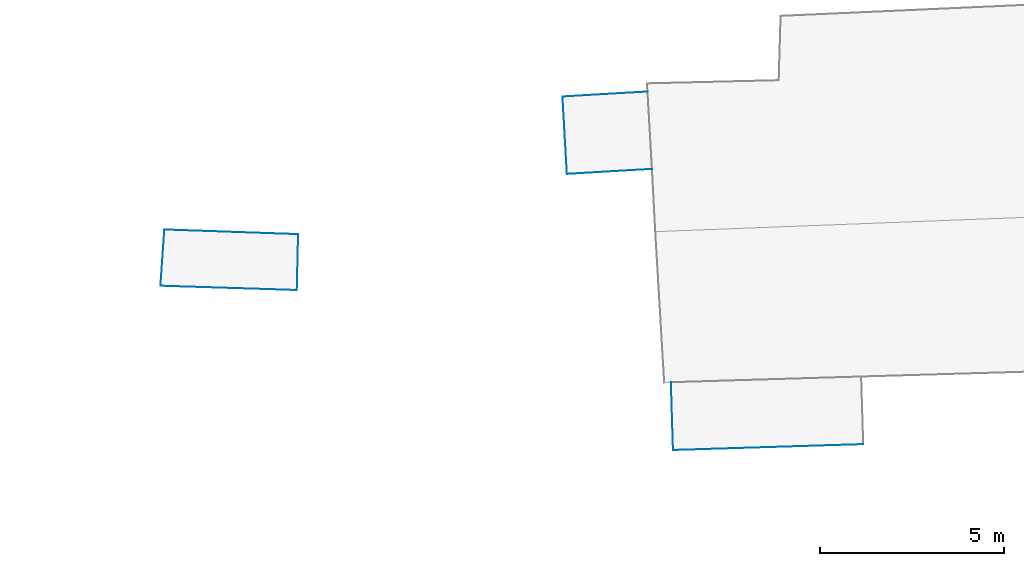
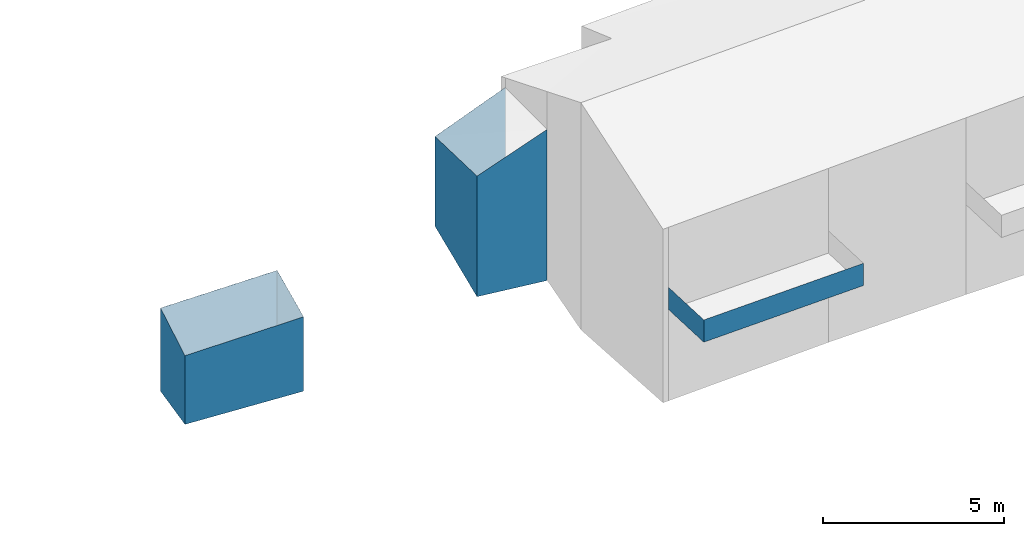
# Not in any storey, part 7 of 57: 11 walls.
"""IFC2X3 building model written with IfcOpenShell, lengths in metres."""

import ifcopenshell
import ifcopenshell.guid

model = None  # the IFC model being written
_history = None  # IfcOwnerHistory: only IFC2X3 demands one
_inside = {}  # id of a spatial element -> (the spatial element, [elements in it])
_under = {}  # id of a project, library or spatial element -> (it, [spatial elements below it])
_declared = {}  # id of a project -> (the project, [libraries it declares])
_typed = {}  # id of a type object -> (the type object, [elements of that type])
_made_of = {}  # id of a material, layer set ... -> (it, [elements and type objects made of it])


def new_model(schema):
    """Start an empty IFC model of exactly this schema.

    Asked for "IFC4X3", IfcOpenShell would pick the latest addendum, in which some entities
    have other attributes; the version numbers below select the first issue.
    IFC2X3 requires an IfcOwnerHistory on every rooted entity: one is made here for all.
    """
    global model, _history
    if schema == "IFC4X3":
        model = ifcopenshell.file(schema_version=(4, 3, 0, 0))
    else:
        model = ifcopenshell.file(schema=schema)
    _inside.clear()
    _under.clear()
    _declared.clear()
    _typed.clear()
    _made_of.clear()
    _history = None
    if model.schema == "IFC2X3":
        org = make("IfcOrganization", Name="unknown")
        user = make(
            "IfcPersonAndOrganization",
            ThePerson=make("IfcPerson", FamilyName="unknown"),
            TheOrganization=org,
        )
        app = make(
            "IfcApplication",
            ApplicationDeveloper=org,
            Version="unknown",
            ApplicationFullName="unknown",
            ApplicationIdentifier="unknown",
        )
        _history = make(
            "IfcOwnerHistory",
            OwningUser=user,
            OwningApplication=app,
            ChangeAction="ADDED",
            CreationDate=0,
        )
    return model


def make(cls, **values):
    """One entity of the class cls with the attributes given. An attribute that is None is left unset."""
    return model.create_entity(
        cls, **{name: value for name, value in values.items() if value is not None}
    )


def entity(cls, *values):
    """Any entity or typed value of the class cls, its attributes in the order of the schema. None: left unset."""
    e = model.create_entity(cls)
    for i, value in enumerate(values):
        if value is not None:
            e[i] = value
    return e


def rooted(cls, **values):
    """An entity with a GlobalId (a new one), such as an element, a storey or a relation."""
    return make(cls, GlobalId=ifcopenshell.guid.new(), OwnerHistory=_history, **values)


def si_unit(unit_type, name, prefix=None):
    """IfcSIUnit, for example si_unit("LENGTHUNIT", "METRE", prefix="MILLI")."""
    return make("IfcSIUnit", UnitType=unit_type, Prefix=prefix, Name=name)


def converted_unit(unit_type, name, factor, base, dimensions=None, offset=None):
    """IfcConversionBasedUnit, such as the inch: factor (a typed value) times the base unit."""
    return make(
        "IfcConversionBasedUnit"
        if offset is None
        else "IfcConversionBasedUnitWithOffset",
        ConversionOffset=offset,
        Dimensions=None
        if dimensions is None
        else entity("IfcDimensionalExponents", *dimensions),
        UnitType=unit_type,
        Name=name,
        ConversionFactor=make(
            "IfcMeasureWithUnit", ValueComponent=factor, UnitComponent=base
        ),
    )


def assignment(units):
    """IfcUnitAssignment: the units of a project."""
    return None if units is None else make("IfcUnitAssignment", Units=units)


def point(xyz):
    """IfcCartesianPoint."""
    return None if xyz is None else make("IfcCartesianPoint", Coordinates=xyz)


def direction(xyz):
    """IfcDirection."""
    return None if xyz is None else make("IfcDirection", DirectionRatios=xyz)


def frame(location, z_axis=None, x_axis=None):
    """IfcAxis2Placement3D, a coordinate frame: its origin and axes. An axis left out is left unset."""
    return make(
        "IfcAxis2Placement3D",
        Location=point(location),
        Axis=direction(z_axis),
        RefDirection=direction(x_axis),
    )


def origin():
    """The frame at (0, 0, 0) with its axes left unset."""
    return frame((0.0, 0.0, 0.0))


def place(relative_to, where):
    """IfcLocalPlacement: puts the frame where relative to a parent placement (None: the world)."""
    return make(
        "IfcLocalPlacement", PlacementRelTo=relative_to, RelativePlacement=where
    )


def context(
    kind, dimensions, precision=None, world=None, true_north=None, identifier=None
):
    """IfcGeometricRepresentationContext, for example the 3D "Model" context."""
    return make(
        "IfcGeometricRepresentationContext",
        ContextIdentifier=identifier,
        ContextType=kind,
        CoordinateSpaceDimension=dimensions,
        Precision=precision,
        WorldCoordinateSystem=world,
        TrueNorth=true_north,
    )


def subcontext(parent, identifier, kind, view, scale=None):
    """IfcGeometricRepresentationSubContext, for example "Body" below "Model"."""
    return make(
        "IfcGeometricRepresentationSubContext",
        ContextIdentifier=identifier,
        ContextType=kind,
        ParentContext=parent,
        TargetScale=scale,
        TargetView=view,
    )


def project(units=None, contexts=None):
    """IfcProject with its units and contexts."""
    return rooted(
        "IfcProject",
        Name="project",
        RepresentationContexts=contexts,
        UnitsInContext=assignment(units),
    )


def spatial(cls, under=None, at=None, **own):
    """A site, building, storey or space (cls), placed at a placement, below another one or the project."""
    s = rooted(cls, ObjectPlacement=at, **own)
    if under is not None:
        _under.setdefault(under.id(), (under, []))[1].append(s)
    return s


def faces_of(points, faces, orient=None, outer=None):
    """IfcFace entities. A face is a list of loops; a loop is a list of indices into points, from 0.

    orient and outer hold one flag for each loop. By default every Orientation is true, the
    first loop of a face is its IfcFaceOuterBound and the others are IfcFaceBound.
    """
    made = []
    for i, loops in enumerate(faces):
        bounds = []
        for j, loop in enumerate(loops):
            is_outer = j == 0 if outer is None else outer[i][j]
            bounds.append(
                make(
                    "IfcFaceOuterBound" if is_outer else "IfcFaceBound",
                    Bound=make("IfcPolyLoop", Polygon=[points[k] for k in loop]),
                    Orientation=True if orient is None else orient[i][j],
                )
            )
        made.append(make("IfcFace", Bounds=bounds))
    return made


def face_set(faces, orient=None, outer=None):
    """The faces of one IfcConnectedFaceSet. surface_model builds it on its shared points."""
    return ("IfcConnectedFaceSet", faces, orient, outer)


def surface_model(cls, points, shells):
    """IfcFaceBasedSurfaceModel or IfcShellBasedSurfaceModel (cls): surfaces that need not close."""
    shared = [point(p) for p in points]
    made = [make(c, CfsFaces=faces_of(shared, fs, o, b)) for c, fs, o, b in shells]
    if cls == "IfcFaceBasedSurfaceModel":
        return make(cls, FbsmFaces=made)
    return make(cls, SbsmBoundary=made)


def shape(context_of_items, identifier, shape_type, items):
    """IfcShapeRepresentation: the items that make up one representation, for example the "Body"."""
    return make(
        "IfcShapeRepresentation",
        ContextOfItems=context_of_items,
        RepresentationIdentifier=identifier,
        RepresentationType=shape_type,
        Items=items,
    )


def made_of(thing, what):
    """Note that an element or type object is made of a material, layer set ...; save() writes the relation."""
    if what is not None:
        _made_of.setdefault(what.id(), (what, []))[1].append(thing)
    return thing


def element(
    cls,
    number,
    at=None,
    inside=None,
    cuts=None,
    type_object=None,
    material=None,
    context=None,
    identifier="Body",
    shape_type=None,
    held_by="IfcProductDefinitionShape",
    body=None,
    shapes=None,
    **own,
):
    """One element of the class cls, such as IfcWall. Its Tag is "e" and its number.

    at: its placement. inside: the storey or other place that contains it. cuts: it is an
    opening in that element (IfcRelVoidsElement). A single representation is given by context,
    identifier, shape_type and body (its items); several are given by shapes. held_by: the class
    of the entity that holds the representations. save() writes the other relations.
    """
    e = rooted(cls, Tag="e%d" % number, ObjectPlacement=at, **own)
    if body is not None:
        shapes = [shape(context, identifier, shape_type, body)]
    if shapes is not None:
        e.Representation = make(held_by, Representations=shapes)
    if inside is not None:
        _inside.setdefault(inside.id(), (inside, []))[1].append(e)
    if cuts is not None:
        rooted(
            "IfcRelVoidsElement", RelatingBuildingElement=cuts, RelatedOpeningElement=e
        )
    if type_object is not None:
        _typed.setdefault(type_object.id(), (type_object, []))[1].append(e)
    return made_of(e, material)


def aggregate(whole, parts):
    """IfcRelAggregates: a whole, such as a stair, and the parts it consists of."""
    return rooted("IfcRelAggregates", RelatingObject=whole, RelatedObjects=parts)


def save(model, path):
    """Write the relations noted so far, then the file.

    IfcRelAggregates (storeys below a building ...), IfcRelContainedInSpatialStructure (elements
    in a storey), IfcRelDefinesByType, IfcRelAssociatesMaterial and IfcRelDeclares: one each for
    every whole, place, type object, material and project.
    """
    for whole, parts in _under.values():
        aggregate(whole, parts)
    for where, things in _inside.values():
        rooted(
            "IfcRelContainedInSpatialStructure",
            RelatedElements=things,
            RelatingStructure=where,
        )
    for kind, things in _typed.values():
        rooted("IfcRelDefinesByType", RelatedObjects=things, RelatingType=kind)
    for what, things in _made_of.values():
        rooted("IfcRelAssociatesMaterial", RelatedObjects=things, RelatingMaterial=what)
    for by, libraries in _declared.values():
        rooted("IfcRelDeclares", RelatingContext=by, RelatedDefinitions=libraries)
    model.write(path)


model = new_model("IFC2X3")

# Units and contexts
model_context = context("Model", 3, precision=1e-05, world=origin())
body_context = subcontext(model_context, "Body", "Model", "MODEL_VIEW")
ifc_project = project(units=[converted_unit("PLANEANGLEUNIT", "DEGREE", entity("IfcRatioMeasure", 0.0174532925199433), si_unit("PLANEANGLEUNIT", "RADIAN"), dimensions=[0, 0, 0, 0, 0, 0, 0]), si_unit("AREAUNIT", "SQUARE_METRE"), si_unit("LENGTHUNIT", "METRE")], contexts=[model_context])

# Site, building
site_placement = place(None, origin())
site = spatial("IfcSite", under=ifc_project, at=site_placement, Name="_site", CompositionType="ELEMENT")
building_1_placement = place(site_placement, origin())
building_1 = spatial("IfcBuilding", under=site, at=building_1_placement, Name="_building", CompositionType="ELEMENT")

# Walls
wall_1_placement = place(building_1_placement, origin())
element("IfcWall", 1, at=wall_1_placement, inside=building_1, Name="Wall", context=body_context, shape_type="SurfaceModel", body=[
    surface_model("IfcFaceBasedSurfaceModel", [(178.993, 61.402, 109.81), (175.283, 61.519, 109.73), (175.283, 61.519, 107.415), (178.993, 61.402, 107.307)], [face_set([[[0, 1, 2, 3]]])]),
])
wall_2_placement = place(building_1_placement, origin())
element("IfcWall", 2, at=wall_2_placement, inside=building_1, Name="Wall", context=body_context, shape_type="SurfaceModel", body=[
    surface_model("IfcFaceBasedSurfaceModel", [(179.029, 62.922, 110.44), (178.993, 61.402, 109.81), (178.993, 61.402, 107.307), (179.029, 62.922, 107.557)], [face_set([[[0, 1, 2, 3]]])]),
])
wall_3_placement = place(building_1_placement, origin())
element("IfcWall", 3, at=wall_3_placement, inside=building_1, Name="Wall", context=body_context, shape_type="SurfaceModel", body=[
    surface_model("IfcFaceBasedSurfaceModel", [(175.389, 63.048, 110.37), (179.029, 62.922, 110.44), (179.029, 62.922, 107.557), (175.389, 63.048, 107.567)], [face_set([[[0, 1, 2, 3]]])]),
])
wall_4_placement = place(building_1_placement, origin())
element("IfcWall", 4, at=wall_4_placement, inside=building_1, Name="Wall", context=body_context, shape_type="SurfaceModel", body=[
    surface_model("IfcFaceBasedSurfaceModel", [(175.283, 61.519, 109.73), (175.389, 63.048, 110.37), (175.389, 63.048, 107.567), (175.283, 61.519, 107.415)], [face_set([[[0, 1, 2, 3]]])]),
])

# Building
building_2_placement = place(site_placement, origin())
building_2 = spatial("IfcBuilding", under=site, at=building_2_placement, Name="_building", CompositionType="ELEMENT")

# Walls
wall_5_placement = place(building_2_placement, origin())
element("IfcWall", 5, at=wall_5_placement, inside=building_2, Name="Wall", context=body_context, shape_type="SurfaceModel", body=[
    surface_model("IfcFaceBasedSurfaceModel", [(186.221, 66.667, 110.16), (188.535, 66.802, 110.92), (188.535, 66.802, 107.299), (186.221, 66.667, 107.133)], [face_set([[[0, 1, 2, 3]]])]),
])
wall_6_placement = place(building_2_placement, origin())
element("IfcWall", 6, at=wall_6_placement, inside=building_2, Name="Wall", context=body_context, shape_type="SurfaceModel", body=[
    surface_model("IfcFaceBasedSurfaceModel", [(186.341, 64.562, 110.06), (186.221, 66.667, 110.16), (186.221, 66.667, 107.133), (186.341, 64.562, 105.998)], [face_set([[[0, 1, 2, 3]]])]),
])
wall_7_placement = place(building_2_placement, origin())
element("IfcWall", 7, at=wall_7_placement, inside=building_2, Name="Wall", context=body_context, shape_type="SurfaceModel", body=[
    surface_model("IfcFaceBasedSurfaceModel", [(188.656, 64.698, 110.74), (186.341, 64.562, 110.06), (186.341, 64.562, 105.998), (188.656, 64.698, 105.651)], [face_set([[[0, 1, 2, 3]]])]),
])
wall_8_placement = place(building_2_placement, origin())
element("IfcWall", 8, at=wall_8_placement, inside=building_2, Name="Wall", context=body_context, shape_type="SurfaceModel", body=[
    surface_model("IfcFaceBasedSurfaceModel", [(189.228, 57.05, 108.01), (194.404, 57.209, 108.01), (194.404, 57.209, 108.76), (189.228, 57.05, 108.76)], [face_set([[[0, 1, 2, 3]]])]),
])
wall_9_placement = place(building_2_placement, origin())
element("IfcWall", 9, at=wall_9_placement, inside=building_2, Name="Wall", context=body_context, shape_type="SurfaceModel", body=[
    surface_model("IfcFaceBasedSurfaceModel", [(189.171, 58.893, 108.01), (189.228, 57.05, 108.01), (189.228, 57.05, 108.76), (189.171, 58.893, 108.76)], [face_set([[[0, 1, 2, 3]]])]),
])
wall_10_placement = place(building_2_placement, origin())
element("IfcWall", 10, at=wall_10_placement, inside=building_2, Name="Wall", context=body_context, shape_type="SurfaceModel", body=[
    surface_model("IfcFaceBasedSurfaceModel", [(189.228, 57.05, 108.01), (194.404, 57.209, 108.01), (194.404, 57.209, 108.76), (189.228, 57.05, 108.76)], [face_set([[[0, 1, 2, 3]]])]),
])
wall_11_placement = place(building_2_placement, origin())
element("IfcWall", 11, at=wall_11_placement, inside=building_2, Name="Wall", context=body_context, shape_type="SurfaceModel", body=[
    surface_model("IfcFaceBasedSurfaceModel", [(189.171, 58.893, 108.01), (189.228, 57.05, 108.01), (189.228, 57.05, 108.76), (189.171, 58.893, 108.76)], [face_set([[[0, 1, 2, 3]]])]),
])

save(model, "model.ifc")
